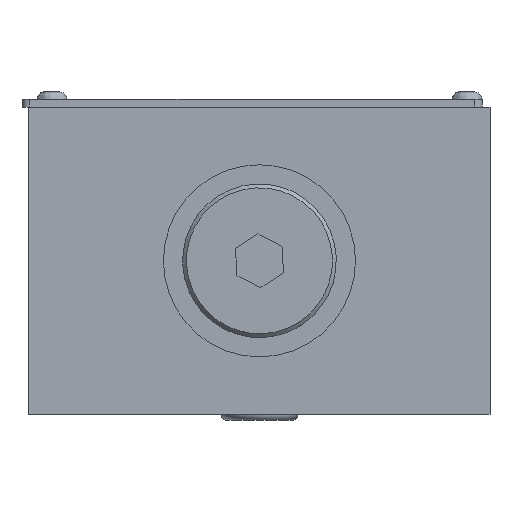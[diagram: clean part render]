
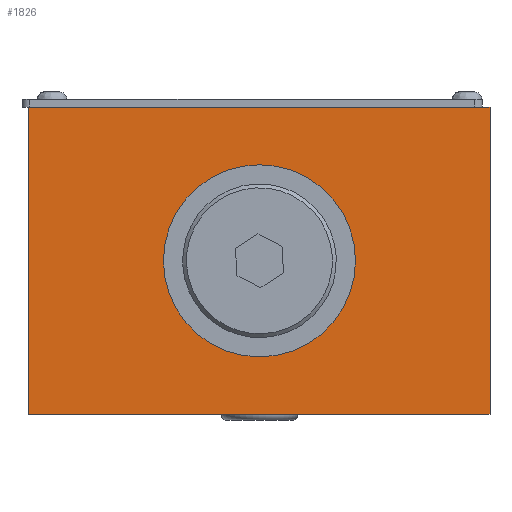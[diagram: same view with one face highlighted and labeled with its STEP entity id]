
A CAD part, front view. The second image highlights one B-rep face of the part: STEP entity #1826.
In plain terms, the highlighted planar face has unit normal (0, -1, 0).
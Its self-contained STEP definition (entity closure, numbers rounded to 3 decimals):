
#760=PLANE('',#7593);
#1043=LINE('',#17841,#1407);
#1059=LINE('',#17917,#1423);
#1060=LINE('',#17921,#1424);
#1061=LINE('',#17923,#1425);
#1407=VECTOR('',#8539,1.);
#1423=VECTOR('',#8575,1.);
#1424=VECTOR('',#8580,1.);
#1425=VECTOR('',#8581,1.);
#1826=ADVANCED_FACE('',(#2663,#2664),#760,.T.);
#2663=FACE_BOUND('',#3128,.T.);
#2664=FACE_BOUND('',#3129,.T.);
#3128=EDGE_LOOP('',(#4037));
#3129=EDGE_LOOP('',(#4038,#4039,#4040,#4041));
#4037=ORIENTED_EDGE('',*,*,#6410,.F.);
#4038=ORIENTED_EDGE('',*,*,#6411,.F.);
#4039=ORIENTED_EDGE('',*,*,#6409,.F.);
#4040=ORIENTED_EDGE('',*,*,#6381,.T.);
#4041=ORIENTED_EDGE('',*,*,#6412,.T.);
#5678=VERTEX_POINT('',#17836);
#5680=VERTEX_POINT('',#17840);
#5706=VERTEX_POINT('',#17916);
#5707=VERTEX_POINT('',#17920);
#5708=VERTEX_POINT('',#17922);
#6381=EDGE_CURVE('',#5678,#5680,#1043,.T.);
#6409=EDGE_CURVE('',#5678,#5706,#1059,.T.);
#6410=EDGE_CURVE('',#5707,#5707,#7228,.T.);
#6411=EDGE_CURVE('',#5706,#5708,#1060,.T.);
#6412=EDGE_CURVE('',#5680,#5708,#1061,.T.);
#7228=CIRCLE('',#7592,12.5);
#7592=AXIS2_PLACEMENT_3D('',#17919,#8578,#8579);
#7593=AXIS2_PLACEMENT_3D('',#17924,#8582,#8583);
#8539=DIRECTION('',(0.,0.,1.));
#8575=DIRECTION('',(-1.,0.,0.));
#8578=DIRECTION('',(0.,-1.,0.));
#8579=DIRECTION('',(1.,0.,0.));
#8580=DIRECTION('',(0.,0.,1.));
#8581=DIRECTION('',(-1.,0.,0.));
#8582=DIRECTION('',(0.,-1.,0.));
#8583=DIRECTION('',(-1.,0.,0.));
#17836=CARTESIAN_POINT('',(37.801,-78.308,-20.));
#17840=CARTESIAN_POINT('',(37.801,-78.308,20.));
#17841=CARTESIAN_POINT('',(37.801,-78.308,-20.));
#17916=CARTESIAN_POINT('',(-22.199,-78.308,-20.));
#17917=CARTESIAN_POINT('',(37.801,-78.308,-20.));
#17919=CARTESIAN_POINT('',(7.801,-78.308,0.));
#17920=CARTESIAN_POINT('',(20.301,-78.308,0.));
#17921=CARTESIAN_POINT('',(-22.199,-78.308,-20.));
#17922=CARTESIAN_POINT('',(-22.199,-78.308,20.));
#17923=CARTESIAN_POINT('',(37.801,-78.308,20.));
#17924=CARTESIAN_POINT('',(37.801,-78.308,-20.));
